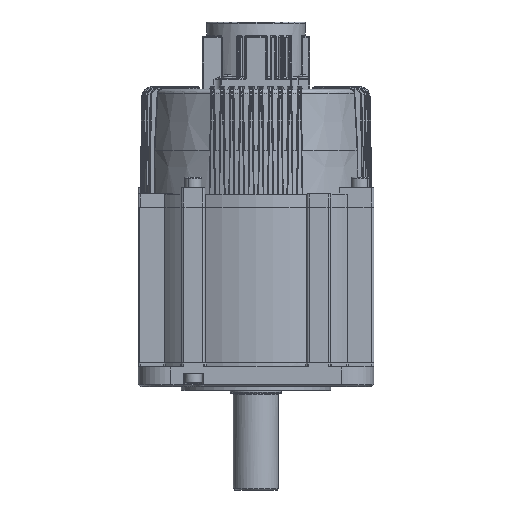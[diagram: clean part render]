
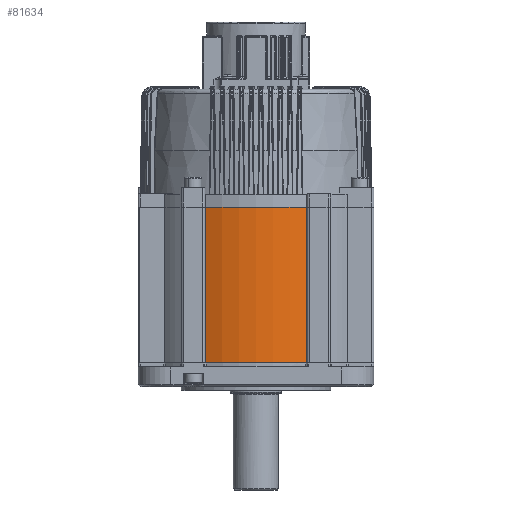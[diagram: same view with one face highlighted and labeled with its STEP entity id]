
A CAD part, front view. The second image highlights one B-rep face of the part: STEP entity #81634.
In plain terms, the highlighted cylindrical face has radius 90 mm (diameter 180 mm), a partial arc.
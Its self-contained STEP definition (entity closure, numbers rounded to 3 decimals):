
#1511 = DIRECTION ( 'NONE',  ( -1., 0., 0. ) ) ;
#2706 = AXIS2_PLACEMENT_3D ( 'NONE', #83757, #21170, #113055 ) ;
#5256 = DIRECTION ( 'NONE',  ( 0., 0., 1. ) ) ;
#13911 = DIRECTION ( 'NONE',  ( 1., 0., 0. ) ) ;
#14576 = VERTEX_POINT ( 'NONE', #72698 ) ;
#21170 = DIRECTION ( 'NONE',  ( 0., 0., -1. ) ) ;
#23589 = CIRCLE ( 'NONE', #2706, 90. ) ;
#45672 = EDGE_CURVE ( 'NONE', #14576, #91470, #116506, .T. ) ;
#46195 = CIRCLE ( 'NONE', #100301, 90. ) ;
#61988 = ORIENTED_EDGE ( 'NONE', *, *, #106549, .F. ) ;
#63507 = ORIENTED_EDGE ( 'NONE', *, *, #45672, .T. ) ;
#63972 = DIRECTION ( 'NONE',  ( 0., 0., -1. ) ) ;
#64087 = VECTOR ( 'NONE', #129381, 1000. ) ;
#65337 = CARTESIAN_POINT ( 'NONE',  ( 0., 0., 119. ) ) ;
#66989 = ORIENTED_EDGE ( 'NONE', *, *, #102292, .F. ) ;
#72698 = CARTESIAN_POINT ( 'NONE',  ( -38.287, -81.45, 119. ) ) ;
#74110 = LINE ( 'NONE', #77362, #64087 ) ;
#74143 = CARTESIAN_POINT ( 'NONE',  ( -38.287, -81.45, 0. ) ) ;
#76639 = VERTEX_POINT ( 'NONE', #83959 ) ;
#77362 = CARTESIAN_POINT ( 'NONE',  ( 38.287, -81.45, 119. ) ) ;
#81634 = ADVANCED_FACE ( 'NONE', ( #112496 ), #84679, .T. ) ;
#82669 = CARTESIAN_POINT ( 'NONE',  ( -38.287, -81.45, 119. ) ) ;
#83096 = DIRECTION ( 'NONE',  ( 0., 0., -1. ) ) ;
#83757 = CARTESIAN_POINT ( 'NONE',  ( 0., 0., 0. ) ) ;
#83959 = CARTESIAN_POINT ( 'NONE',  ( 38.287, -81.45, 119. ) ) ;
#84679 = CYLINDRICAL_SURFACE ( 'NONE', #97706, 90. ) ;
#91470 = VERTEX_POINT ( 'NONE', #74143 ) ;
#91605 = VERTEX_POINT ( 'NONE', #107009 ) ;
#95976 = ORIENTED_EDGE ( 'NONE', *, *, #122875, .F. ) ;
#97706 = AXIS2_PLACEMENT_3D ( 'NONE', #65337, #63972, #1511 ) ;
#100301 = AXIS2_PLACEMENT_3D ( 'NONE', #108445, #5256, #13911 ) ;
#102292 = EDGE_CURVE ( 'NONE', #14576, #76639, #46195, .T. ) ;
#106549 = EDGE_CURVE ( 'NONE', #91605, #91470, #23589, .T. ) ;
#107009 = CARTESIAN_POINT ( 'NONE',  ( 38.287, -81.45, 0. ) ) ;
#108445 = CARTESIAN_POINT ( 'NONE',  ( 0., 0., 119. ) ) ;
#112496 = FACE_OUTER_BOUND ( 'NONE', #124973, .T. ) ;
#113055 = DIRECTION ( 'NONE',  ( -1., 0., 0. ) ) ;
#116506 = LINE ( 'NONE', #82669, #118210 ) ;
#118210 = VECTOR ( 'NONE', #83096, 1000. ) ;
#122875 = EDGE_CURVE ( 'NONE', #76639, #91605, #74110, .T. ) ;
#124973 = EDGE_LOOP ( 'NONE', ( #63507, #61988, #95976, #66989 ) ) ;
#129381 = DIRECTION ( 'NONE',  ( 0., 0., -1. ) ) ;
